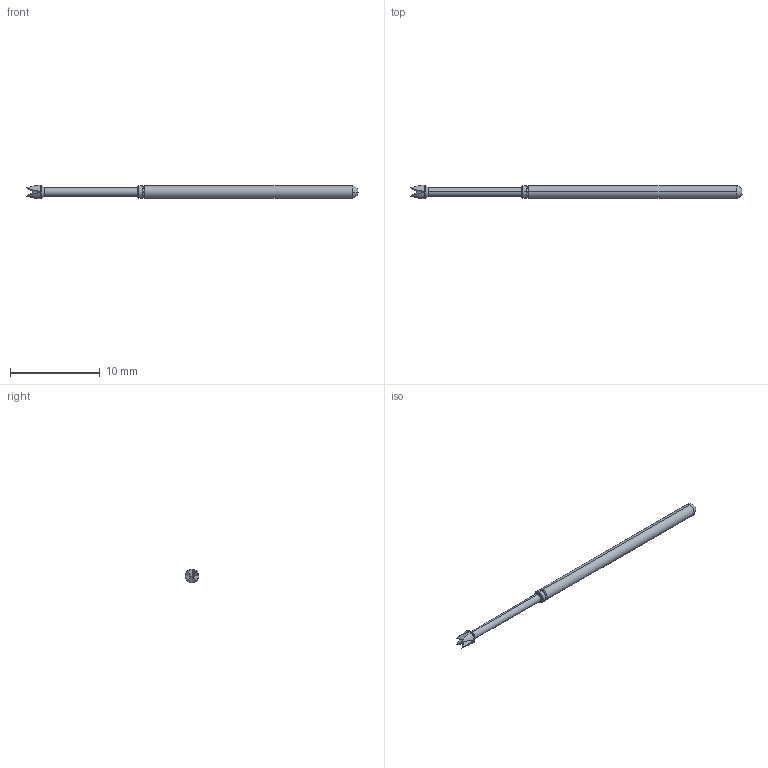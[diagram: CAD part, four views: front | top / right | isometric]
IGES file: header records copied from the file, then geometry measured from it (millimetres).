
Start section: SolidWorks IGES file using analytic representation for surfaces
Global section: file name: Z:\probe solid model mockups\Solidworks models\LTP-25\LTP-25L.IGS; native system: SolidWorks 2006 by SolidWorks Corporation; preprocessor: SolidWorks 2006 by SolidWorks Corporation; author: tsakatani; date: 071214.143154; units: inch
Bounding box: 37.08 x 1.52 x 1.52 mm (x, y, z)
Surface area: 148.1 mm2 (no closed solid volume)
Topology: 0 solids, 0 shells, 34 faces, 210 edges, 210 vertices
Faces by surface type: revolution 20, bspline 14
